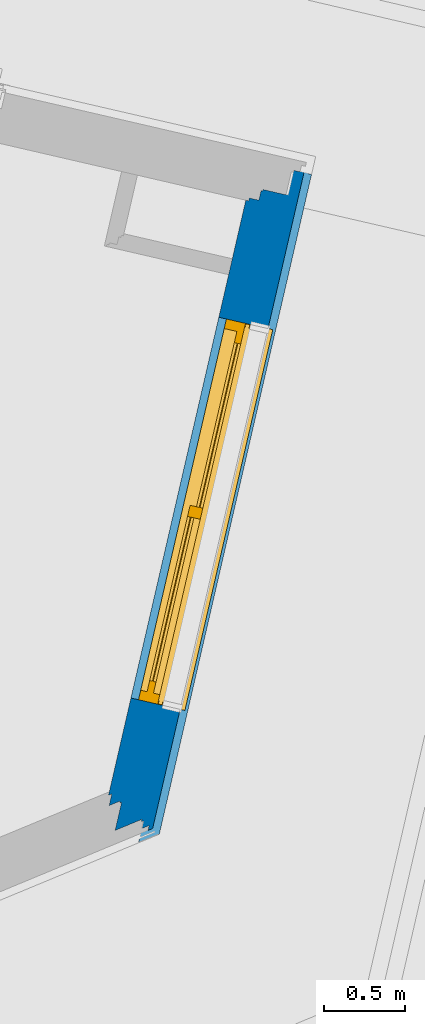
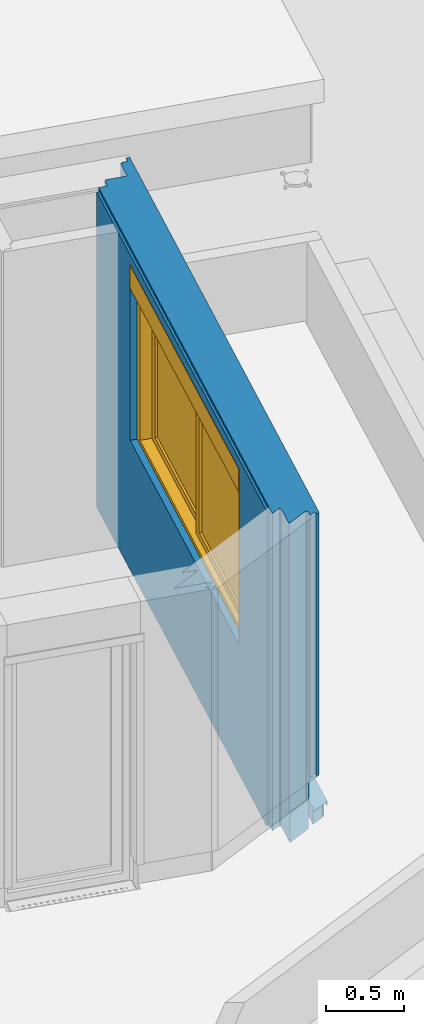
# One storey, part 9 of 47: 1 wall, 1 window, 1 opening.
"""IFC2X3 building model written with IfcOpenShell, lengths in metres."""

from ifc_helpers import new_model, entity, si_unit, converted_unit, derived_unit, money_unit, direction, frame, origin_with_axes, place, context, subcontext, project, spatial, open_shell, faceted_brep, surface_model, material, material_list, type_object, element, fill, save


model = new_model("IFC2X3")

# Units and contexts
model_context = context("Model", 3, precision=1e-05, world=origin_with_axes(), true_north=direction((0.0, 1.0)))
body_context = subcontext(model_context, "Body", "Model", "MODEL_VIEW")
ifc_project = project(units=[si_unit("LENGTHUNIT", "METRE"), si_unit("AREAUNIT", "SQUARE_METRE"), si_unit("VOLUMEUNIT", "CUBIC_METRE"), converted_unit("PLANEANGLEUNIT", "DEGREE", entity("IfcPlaneAngleMeasure", 0.0174532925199), si_unit("PLANEANGLEUNIT", "RADIAN"), dimensions=[0, 0, 0, 0, 0, 0, 0]), si_unit("SOLIDANGLEUNIT", "STERADIAN"), money_unit("EUR"), converted_unit("TIMEUNIT", "Year", entity("IfcTimeMeasure", 31556926.0), si_unit("TIMEUNIT", "SECOND"), dimensions=[0, 0, 1, 0, 0, 0, 0]), si_unit("MASSUNIT", "GRAM", prefix="KILO"), si_unit("THERMODYNAMICTEMPERATUREUNIT", "DEGREE_CELSIUS"), si_unit("LUMINOUSINTENSITYUNIT", "LUMEN"), si_unit("ENERGYUNIT", "JOULE", prefix="MEGA"), derived_unit("THERMALCONDUCTANCEUNIT", [(si_unit("POWERUNIT", "WATT"), 1), (si_unit("LENGTHUNIT", "METRE"), -1), (si_unit("THERMODYNAMICTEMPERATUREUNIT", "KELVIN"), -1)]), derived_unit("SPECIFICHEATCAPACITYUNIT", [(si_unit("ENERGYUNIT", "JOULE"), 1), (si_unit("MASSUNIT", "GRAM", prefix="KILO"), -1), (si_unit("THERMODYNAMICTEMPERATUREUNIT", "KELVIN"), -1)]), derived_unit("MASSDENSITYUNIT", [(si_unit("MASSUNIT", "GRAM", prefix="KILO"), 1), (si_unit("VOLUMEUNIT", "CUBIC_METRE"), -1)])], contexts=[model_context])

# Site, building, storey
site_placement = place(None, origin_with_axes())
site = spatial("IfcSite", under=ifc_project, at=site_placement, Name="Site", CompositionType="ELEMENT")
building_placement = place(site_placement, origin_with_axes())
building = spatial("IfcBuilding", under=site, at=building_placement, Name="Bâtiment", CompositionType="ELEMENT")
storey_placement = place(building_placement, frame((0.0, 0.0, 10.88), z_axis=(0.0, 0.0, 1.0), x_axis=(1.0, 0.0, 0.0)))
storey = spatial("IfcBuildingStorey", under=building, at=storey_placement, Name="R+4", CompositionType="ELEMENT", Elevation=10.88)

# Wall, opening, window
ifc_material_1 = material(Name="Finition int - Plaque de plâtre")
ifc_material_2 = material(Name="Isolation - Laine de verre")
ifc_material_3 = material(Name="Etanchéité - Pare-vapeur")
ifc_material_4 = material(Name="Bois - Massif 01")
ifc_material_5 = material(Name="Béton")
ifc_material_6 = material(Name="Bois - OSB 02")
ifc_material_7 = material(Name="Bois - Lattage")
ifc_material_8 = material(Name="Isolation - Polyuréthane (extérieur)")
ifc_material_9 = material(Name="Finition ext - Bardage bois")
ifc_material_10 = material(Name="Etanchéité - Bitume")
ifc_material_11 = material(Name="Métal - Aluminium")
ifc_material_list = material_list([ifc_material_1, ifc_material_2, ifc_material_3, ifc_material_4, ifc_material_4, ifc_material_2, ifc_material_5, ifc_material_6, ifc_material_7, ifc_material_8, ifc_material_9, ifc_material_10, ifc_material_11])
wall_type = type_object("IfcWallType", Name="Mur ossature Bois avec talon béton 358 x 2500", PredefinedType="ELEMENTEDWALL")
wall_placement = place(storey_placement, frame((-11.2162384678, -12.9901807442, 0.02), z_axis=(0.0, 0.0, 1.0), x_axis=(0.224876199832, 0.974387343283, 0.0)))
wall = element("IfcWall", 1, at=wall_placement, inside=storey, type_object=wall_type, material=ifc_material_list, Name="M_Ext-009", ObjectType="ELEMENTEDWALL", context=body_context, shape_type="Brep", body=[
    faceted_brep([(3.88898842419, 0.292000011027, 0.100000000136), (3.88898842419, 0.292000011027, 0.2), (3.88898842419, 0.292000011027, 0.23), (3.88898842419, 0.292000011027, 0.275), (3.88898842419, 0.292000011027, 0.435), (3.88898842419, 0.292000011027, 2.45499997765), (3.88898842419, 0.292000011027, 2.48), (0.150318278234, 0.292000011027, 2.48), (0.150318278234, 0.292000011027, 2.455), (0.150318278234, 0.292000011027, 0.435), (0.150318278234, 0.292000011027, 0.275), (0.150318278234, 0.292000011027, 0.23), (0.150318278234, 0.292000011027, 0.2), (0.150318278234, 0.292000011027, 0.100000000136), (0.150318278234, 0.292000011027, 0.0), (3.88898842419, 0.292000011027, 0.0), (0.751271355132, 0.292000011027, 2.22), (0.751271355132, 0.292000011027, 2.4), (3.15127135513, 0.292000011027, 2.4), (3.15127135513, 0.292000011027, 2.22), (3.15127135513, 0.292000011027, 1.02), (0.751271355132, 0.292000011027, 1.02), (3.88898842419, 0.309999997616, 0.100000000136), (3.88898842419, 0.309999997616, 0.2), (3.88898842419, 0.309999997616, 0.23), (3.88898842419, 0.309999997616, 0.275), (3.88898842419, 0.309999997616, 0.435), (3.88898842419, 0.309999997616, 2.45499997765), (3.88898842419, 0.309999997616, 2.48), (0.137468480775, 0.309999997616, 2.48), (0.137468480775, 0.309999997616, 2.455), (0.137468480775, 0.309999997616, 0.435), (0.137468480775, 0.309999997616, 0.275), (0.137468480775, 0.309999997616, 0.23), (0.137468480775, 0.309999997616, 0.2), (0.137468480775, 0.309999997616, 0.100000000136), (0.137468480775, 0.309999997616, 0.0), (3.88898842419, 0.309999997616, 0.0), (0.751271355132, 0.309999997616, 2.22), (0.751271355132, 0.309999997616, 2.4), (3.15127135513, 0.309999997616, 2.4), (3.15127135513, 0.309999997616, 2.22), (3.15127135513, 0.309999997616, 1.02), (0.751271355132, 0.309999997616, 1.02)], [[[0, 1, 2, 3, 4, 5, 6, 7, 8, 9, 10, 11, 12, 13, 14, 15], [16, 17, 18, 19, 20, 21]], [[1, 0, 22, 23]], [[2, 1, 23, 24]], [[3, 2, 24, 25]], [[4, 3, 25, 26]], [[5, 4, 26, 27]], [[5, 27, 28, 6]], [[28, 29, 7, 6]], [[30, 8, 7, 29]], [[30, 31, 9, 8]], [[31, 32, 10, 9]], [[32, 33, 11, 10]], [[33, 34, 12, 11]], [[34, 35, 13, 12]], [[35, 36, 14, 13]], [[36, 37, 15, 14]], [[0, 15, 37, 22]], [[17, 16, 38, 39]], [[18, 17, 39, 40]], [[19, 18, 40, 41]], [[19, 41, 42, 20]], [[20, 42, 43, 21]], [[38, 16, 21, 43]], [[35, 34, 33, 32, 31, 30, 29, 28, 27, 26, 25, 24, 23, 22, 37, 36], [39, 38, 43, 42, 41, 40]]]),
    faceted_brep([(3.90698841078, 0.232000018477, 0.100000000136), (3.90698841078, 0.232000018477, 0.2), (3.90698841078, 0.232000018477, 0.23), (3.90698841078, 0.232000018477, 0.275), (3.90698841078, 0.232000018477, 0.435), (3.90698841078, 0.232000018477, 2.45499997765), (3.90698841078, 0.232000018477, 2.5), (0.119430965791, 0.232000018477, 2.5), (0.119430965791, 0.232000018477, 2.455), (0.119430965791, 0.232000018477, 0.435), (0.119430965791, 0.232000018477, 0.275), (0.119430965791, 0.232000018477, 0.23), (0.119430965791, 0.232000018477, 0.2), (0.119430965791, 0.232000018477, 0.100000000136), (0.119430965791, 0.232000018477, 0.0), (3.90698841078, 0.232000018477, 0.0), (0.751271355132, 0.232000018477, 2.22), (0.751271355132, 0.232000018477, 2.4), (3.15127135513, 0.232000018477, 2.4), (3.15127135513, 0.232000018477, 2.22), (3.15127135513, 0.232000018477, 1.02), (0.751271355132, 0.232000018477, 1.02), (3.90698841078, 0.292000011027, 0.100000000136), (3.90698841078, 0.292000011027, 0.2), (3.90698841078, 0.292000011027, 0.23), (3.90698841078, 0.292000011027, 0.275), (3.90698841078, 0.292000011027, 0.435), (3.90698841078, 0.292000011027, 2.45499997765), (3.90698841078, 0.292000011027, 2.5), (0.0765982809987, 0.292000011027, 2.5), (0.0765982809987, 0.292000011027, 2.455), (0.0765982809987, 0.292000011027, 0.435), (0.0765982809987, 0.292000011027, 0.275), (0.0765982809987, 0.292000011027, 0.23), (0.0765982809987, 0.292000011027, 0.2), (0.0765982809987, 0.292000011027, 0.100000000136), (0.0765982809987, 0.292000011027, 0.0), (3.90698841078, 0.292000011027, 0.0), (0.751271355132, 0.292000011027, 2.22), (0.751271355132, 0.292000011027, 2.4), (3.15127135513, 0.292000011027, 2.4), (3.15127135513, 0.292000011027, 2.22), (3.15127135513, 0.292000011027, 1.02), (0.751271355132, 0.292000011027, 1.02)], [[[0, 1, 2, 3, 4, 5, 6, 7, 8, 9, 10, 11, 12, 13, 14, 15], [16, 17, 18, 19, 20, 21]], [[1, 0, 22, 23]], [[2, 1, 23, 24]], [[3, 2, 24, 25]], [[4, 3, 25, 26]], [[5, 4, 26, 27]], [[6, 5, 27, 28]], [[7, 6, 28, 29]], [[7, 29, 30, 8]], [[30, 31, 9, 8]], [[31, 32, 10, 9]], [[32, 33, 11, 10]], [[33, 34, 12, 11]], [[34, 35, 13, 12]], [[35, 36, 14, 13]], [[36, 37, 15, 14]], [[0, 15, 37, 22]], [[17, 16, 38, 39]], [[18, 17, 39, 40]], [[19, 18, 40, 41]], [[19, 41, 42, 20]], [[20, 42, 43, 21]], [[38, 16, 21, 43]], [[37, 36, 35, 34, 33, 32, 31, 30, 29, 28, 27, 26, 25, 24, 23, 22], [39, 38, 43, 42, 41, 40]]]),
    faceted_brep([(3.96698840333, 0.221999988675, 0.100000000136), (3.96698840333, 0.221999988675, 0.2), (3.96698840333, 0.221999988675, 0.23), (3.96698840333, 0.221999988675, 0.275), (3.96698840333, 0.221999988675, 0.435), (3.96698840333, 0.221999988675, 2.45499997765), (3.96698840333, 0.221999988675, 2.5), (0.114283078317, 0.221999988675, 2.5), (0.114283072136, 0.221999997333, 2.455), (0.114283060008, 0.221999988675, 0.435), (0.114283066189, 0.221999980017, 0.275), (0.11428307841, 0.221999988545, 0.23), (0.114283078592, 0.221999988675, 0.2), (0.114283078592, 0.221999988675, 0.100000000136), (0.114283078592, 0.221999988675, 0.0), (3.96698840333, 0.221999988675, 0.0), (0.751271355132, 0.221999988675, 2.22), (0.751271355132, 0.221999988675, 2.4), (3.15127135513, 0.221999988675, 2.4), (3.15127135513, 0.221999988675, 2.22), (3.15127135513, 0.221999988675, 1.02), (0.751271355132, 0.221999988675, 1.02), (3.96698840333, 0.232000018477, 0.100000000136), (3.96698840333, 0.232000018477, 0.2), (3.96698840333, 0.232000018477, 0.23), (3.96698840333, 0.232000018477, 0.275), (3.96698840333, 0.232000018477, 0.435), (3.96698840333, 0.232000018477, 2.45499997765), (3.96698840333, 0.232000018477, 2.5), (0.107144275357, 0.232000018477, 2.5), (0.107144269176, 0.232000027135, 2.455), (0.107144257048, 0.232000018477, 0.435), (0.107144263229, 0.23200000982, 0.275), (0.107144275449, 0.232000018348, 0.23), (0.107144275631, 0.232000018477, 0.2), (0.107144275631, 0.232000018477, 0.100000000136), (0.107144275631, 0.232000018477, 0.0), (3.96698840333, 0.232000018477, 0.0), (0.751271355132, 0.232000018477, 2.22), (0.751271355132, 0.232000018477, 2.4), (3.15127135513, 0.232000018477, 2.4), (3.15127135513, 0.232000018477, 2.22), (3.15127135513, 0.232000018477, 1.02), (0.751271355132, 0.232000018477, 1.02)], [[[0, 1, 2, 3, 4, 5, 6, 7, 8, 9, 10, 11, 12, 13, 14, 15], [16, 17, 18, 19, 20, 21]], [[1, 0, 22, 23]], [[2, 1, 23, 24]], [[3, 2, 24, 25]], [[4, 3, 25, 26]], [[5, 4, 26, 27]], [[6, 5, 27, 28]], [[7, 6, 28, 29]], [[7, 29, 30, 8]], [[30, 31, 9, 8]], [[31, 32, 10, 9]], [[32, 33, 11, 10]], [[33, 34, 12, 11]], [[34, 35, 13, 12]], [[35, 36, 14, 13]], [[36, 37, 15, 14]], [[0, 15, 37, 22]], [[17, 16, 38, 39]], [[18, 17, 39, 40]], [[19, 18, 40, 41]], [[19, 41, 42, 20]], [[20, 42, 43, 21]], [[38, 16, 21, 43]], [[37, 36, 35, 34, 33, 32, 31, 30, 29, 28, 27, 26, 25, 24, 23, 22], [39, 38, 43, 42, 41, 40]]]),
    faceted_brep([(-0.0638736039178, 0.222, 0.275), (0.0396387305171, 0.077, 0.275), (3.97698842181, 0.077, 0.275), (3.97698842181, 0.222, 0.275), (0.0396387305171, 0.077, 0.230000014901), (-0.0638736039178, 0.222, 0.230000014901), (3.97698842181, 0.077, 0.23), (3.97698842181, 0.222, 0.23)], [[[0, 1, 2, 3]], [[4, 1, 0, 5]], [[1, 4, 6, 2]], [[3, 2, 6, 7]], [[5, 0, 3, 7]], [[4, 5, 7, 6]]]),
    faceted_brep([(-0.0638736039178, 0.222, 2.5), (0.0396387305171, 0.077, 2.5), (3.97698842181, 0.077, 2.5), (3.97698842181, 0.222, 2.5), (0.0396387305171, 0.077, 2.455), (-0.0638736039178, 0.222, 2.455), (3.97698842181, 0.077, 2.455), (3.97698842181, 0.222, 2.455)], [[[0, 1, 2, 3]], [[4, 1, 0, 5]], [[1, 4, 6, 2]], [[3, 2, 6, 7]], [[5, 0, 3, 7]], [[4, 5, 7, 6]]]),
    faceted_brep([(3.15127135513, 0.183, 1.02), (3.15127135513, 0.183, 0.96), (3.15127135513, 0.077, 0.96), (3.15127135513, 0.077, 1.02), (3.15127135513, 0.077, 2.22), (3.15127135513, 0.112, 2.22), (3.15127135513, 0.112, 2.4), (3.15127135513, 0.221999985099, 2.4), (3.15127135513, 0.221999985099, 2.22), (3.15127135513, 0.221999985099, 1.02), (0.751271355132, 0.183, 1.02), (0.751271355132, 0.183, 0.96), (0.751271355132, 0.077, 0.96), (0.0396387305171, 0.077, 0.275), (3.97698843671, 0.077, 0.275), (3.97698843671, 0.077, 2.4550000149), (0.0396387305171, 0.077, 2.455), (0.751271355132, 0.077, 1.02), (0.751271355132, 0.077, 2.22), (0.751271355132, 0.112, 2.22), (0.751271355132, 0.112, 2.4), (0.751271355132, 0.221999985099, 2.4), (-0.0638735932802, 0.221999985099, 2.455), (3.97698843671, 0.221999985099, 2.4550000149), (3.97698843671, 0.221999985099, 0.275), (-0.0638735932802, 0.221999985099, 0.275), (0.751271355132, 0.221999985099, 2.22), (0.751271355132, 0.221999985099, 1.02)], [[[0, 1, 2, 3, 4, 5, 6, 7, 8, 9]], [[0, 10, 11, 1]], [[12, 2, 1, 11]], [[13, 14, 15, 16], [12, 17, 18, 4, 3, 2]], [[5, 4, 18, 19]], [[19, 20, 6, 5]], [[7, 6, 20, 21]], [[22, 23, 24, 25], [9, 8, 7, 21, 26, 27]], [[10, 0, 9, 27]], [[17, 12, 11, 10, 27, 26, 21, 20, 19, 18]], [[13, 25, 24, 14]], [[23, 15, 14, 24]], [[22, 16, 15, 23]], [[16, 22, 25, 13]]]),
    faceted_brep([(3.97698842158, 0.222000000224, 0.23), (-0.0823036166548, 0.222000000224, 0.230000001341), (0.0319168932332, 0.0619999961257, 0.230000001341), (3.97698842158, 0.0619999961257, 0.23), (-0.0823036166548, 0.222000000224, 0.100000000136), (-0.0823036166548, 0.222000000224, 0.2), (3.97698842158, 0.222000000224, 0.2), (3.97698842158, 0.222000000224, 0.100000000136), (3.97698842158, 0.222000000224, 0.0), (-0.0823036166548, 0.222000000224, 0.0), (0.0319168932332, 0.0619999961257, 0.2), (0.0319168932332, 0.0619999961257, 0.100000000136), (0.0319168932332, 0.0619999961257, 0.0), (3.97698842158, 0.0619999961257, 0.0), (3.97698842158, 0.0619999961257, 0.100000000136), (3.97698842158, 0.0619999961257, 0.2)], [[[0, 1, 2, 3]], [[4, 5, 1, 0, 6, 7, 8, 9]], [[5, 10, 2, 1]], [[3, 2, 10, 11, 12, 13, 14, 15]], [[6, 0, 3, 15]], [[11, 10, 5, 4]], [[7, 6, 15, 14]], [[8, 7, 14, 13]], [[13, 12, 9, 8]], [[12, 11, 4, 9]]]),
    faceted_brep([(3.15127135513, 0.0770000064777, 1.02), (3.15127135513, 0.0770000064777, 0.96), (3.15127135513, 0.065000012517, 0.96), (3.15127135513, 0.065000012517, 1.02), (3.15127135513, 0.065000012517, 2.22), (3.15127135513, 0.0770000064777, 2.22), (0.0248947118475, 0.0770000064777, 2.5), (4.12198841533, 0.0770000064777, 2.5), (4.12198841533, 0.0770000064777, 0.230000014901), (0.0248947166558, 0.0770000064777, 0.23), (0.751271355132, 0.0770000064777, 2.22), (0.751271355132, 0.0770000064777, 1.02), (0.751271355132, 0.0770000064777, 0.96), (0.751271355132, 0.065000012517, 0.96), (4.12198841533, 0.065000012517, 2.5), (0.0334612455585, 0.065000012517, 2.5), (0.0334612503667, 0.065000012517, 0.23), (4.12198841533, 0.065000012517, 0.230000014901), (0.751271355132, 0.065000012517, 1.02), (0.751271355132, 0.065000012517, 2.22)], [[[0, 1, 2, 3, 4, 5]], [[6, 7, 8, 9], [1, 0, 5, 10, 11, 12]], [[13, 2, 1, 12]], [[14, 15, 16, 17], [13, 18, 19, 4, 3, 2]], [[19, 10, 5, 4]], [[14, 7, 6, 15]], [[17, 8, 7, 14]], [[8, 17, 16, 9]], [[9, 16, 15, 6]], [[18, 13, 12, 11, 10, 19]]]),
    faceted_brep([(3.15127135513, 0.0649999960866, 1.02), (3.15127135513, 0.0649999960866, 0.96), (3.15127135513, 0.024999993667, 0.96), (3.15127135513, 0.024999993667, 1.02), (3.15127135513, 0.024999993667, 2.22), (3.15127135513, 0.0649999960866, 2.22), (4.13398842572, 0.0649999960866, 0.435000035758), (-0.0156854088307, 0.0649999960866, 0.435), (-0.0156854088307, 0.0649999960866, 2.5), (4.13398842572, 0.0649999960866, 2.5), (0.751271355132, 0.0649999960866, 2.22), (0.751271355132, 0.0649999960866, 1.02), (0.751271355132, 0.0649999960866, 0.96), (0.751271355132, 0.024999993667, 0.96), (4.13398842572, 0.024999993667, 2.5), (0.0128697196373, 0.024999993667, 2.5), (0.0128697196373, 0.024999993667, 0.435), (4.13398842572, 0.024999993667, 0.435000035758), (0.751271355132, 0.024999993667, 1.02), (0.751271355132, 0.024999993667, 2.22), (4.13398842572, 0.0600000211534, 0.435000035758), (-0.0121160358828, 0.0600000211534, 0.435)], [[[0, 1, 2, 3, 4, 5]], [[6, 7, 8, 9], [1, 0, 5, 10, 11, 12]], [[13, 2, 1, 12]], [[14, 15, 16, 17], [13, 18, 19, 4, 3, 2]], [[19, 10, 5, 4]], [[20, 21, 7, 6]], [[16, 15, 8, 7, 21]], [[14, 9, 8, 15]], [[20, 6, 9, 14, 17]], [[18, 13, 12, 11, 10, 19]], [[17, 16, 21, 20]]]),
    faceted_brep([(-0.00926618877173, -0.0180000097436, 0.0999999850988), (4.13698842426, -0.0180000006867, 0.0999999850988), (4.13698842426, -0.0180000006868, 0.2), (4.13698842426, -0.0180000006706, 0.230000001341), (-0.0092661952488, -0.0180000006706, 0.230000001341), (-0.00926619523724, -0.0180000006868, 0.2), (4.13698842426, 0.0619999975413, 0.0999999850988), (-0.0663764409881, 0.0619999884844, 0.0999999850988), (0.0319168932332, 0.0619999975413, 0.0999999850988), (3.97698842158, 0.0619999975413, 0.0999999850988), (4.13698842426, 0.0619999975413, 0.2), (4.13698842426, 0.0619999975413, 0.230000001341), (-0.0663764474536, 0.0619999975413, 0.230000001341), (-0.0663764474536, 0.0619999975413, 0.2)], [[[0, 1, 2, 3, 4, 5]], [[6, 1, 0, 7, 8, 9]], [[1, 6, 10, 2]], [[10, 11, 3, 2]], [[11, 12, 4, 3]], [[13, 5, 4, 12]], [[7, 0, 5, 13]], [[8, 7, 13, 12, 11, 10, 6, 9]]]),
    faceted_brep([(3.15127135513, 0.025, 1.02), (3.15127135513, 0.0, 1.02), (3.15127135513, 0.0, 2.22), (3.15127135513, 0.025, 2.22), (3.15127135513, 0.0, 0.96), (3.15127135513, 0.025, 0.96), (1.8308607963e-09, 0.0, 0.434999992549), (4.17398842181, 0.0, 0.435), (4.17398842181, 0.0, 2.5), (1.8308607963e-09, 0.0, 2.5), (0.751271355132, 0.0, 0.96), (0.751271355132, 0.0, 1.02), (0.751271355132, 0.0, 2.22), (0.751271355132, 0.025, 2.22), (-0.0178469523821, 0.025, 0.434999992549), (-0.0178469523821, 0.025, 2.5), (4.17398842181, 0.025, 2.5), (4.17398842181, 0.025, 0.435), (0.751271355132, 0.025, 1.02), (0.751271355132, 0.025, 0.96)], [[[0, 1, 2, 3]], [[4, 1, 0, 5]], [[6, 7, 8, 9], [10, 11, 12, 2, 1, 4]], [[12, 13, 3, 2]], [[14, 15, 16, 17], [5, 0, 3, 13, 18, 19]], [[10, 4, 5, 19]], [[6, 14, 17, 7]], [[7, 17, 16, 8]], [[15, 9, 8, 16]], [[9, 15, 14, 6]], [[18, 11, 10, 19]], [[11, 18, 13, 12]]]),
    faceted_brep([(-0.0144141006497, -0.027999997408, 0.109999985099), (4.21698842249, -0.0279999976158, 0.109999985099), (4.21698842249, -0.0279999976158, 0.2), (4.21698842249, -0.0279999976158, 0.230000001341), (-0.0144140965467, -0.0279999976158, 0.230000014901), (-0.0144140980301, -0.0279999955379, 0.2), (4.21698842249, -0.0180000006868, 0.109999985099), (-0.0215528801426, -0.018000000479, 0.109999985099), (-0.00926618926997, -0.0180000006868, 0.109999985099), (4.13698842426, -0.0180000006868, 0.109999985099), (4.21698842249, -0.0180000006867, 0.2), (4.21698842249, -0.0180000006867, 0.230000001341), (-0.0215528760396, -0.0180000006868, 0.230000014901), (-0.021552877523, -0.0179999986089, 0.2)], [[[0, 1, 2, 3, 4, 5]], [[6, 1, 0, 7, 8, 9]], [[1, 6, 10, 2]], [[10, 11, 3, 2]], [[11, 12, 4, 3]], [[13, 5, 4, 12]], [[7, 0, 5, 13]], [[8, 7, 13, 12, 11, 10, 6, 9]]]),
    faceted_brep([(4.13398842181, 0.06, 0.275), (4.13398842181, 0.06, 0.435), (0.0308873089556, 0.06, 0.434999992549), (0.0308873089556, 0.06, 0.234999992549), (4.13398842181, 0.06, 0.234999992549), (4.13398842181, 0.065, 0.435), (4.13398842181, 0.065, 0.275), (0.027317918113, 0.065, 0.434999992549), (0.027317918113, 0.065, 0.234999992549), (4.13398842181, -0.048, 0.234999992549), (-0.101808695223, 0.06, 0.234999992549), (-0.0247098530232, -0.048, 0.234999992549), (4.13398842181, -0.048, 0.23), (4.13398842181, -0.043, 0.23), (4.13398842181, -0.0279999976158, 0.23), (4.13398842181, 0.065, 0.23), (-0.105378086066, 0.065, 0.23), (-0.105378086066, 0.065, 0.234999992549), (-0.0282792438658, -0.043, 0.2), (-0.0247098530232, -0.048, 0.2), (-0.0389874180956, -0.0279999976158, 0.230000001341), (-0.0282792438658, -0.043, 0.23), (4.24198842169, -0.048, 0.2), (4.24198842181, -0.048, 0.23), (4.22698841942, -0.048, 0.230000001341), (4.22698841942, -0.043, 0.230000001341), (4.24198842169, -0.043, 0.2), (4.24198842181, -0.043, 0.23)], [[[0, 1, 2, 3, 4]], [[5, 1, 0, 6]], [[1, 5, 7, 2]], [[8, 3, 2, 7]], [[9, 4, 3, 10, 11]], [[6, 0, 4, 9, 12, 13, 14, 15]], [[5, 6, 15, 16, 17, 8, 7]], [[17, 10, 3, 8]], [[18, 19, 11, 10, 17, 16, 20, 21]], [[12, 9, 11, 19, 22, 23, 24]], [[12, 24, 25, 13]], [[14, 13, 21, 20]], [[15, 14, 20, 16]], [[26, 22, 19, 18]], [[25, 27, 26, 18, 21, 13]], [[27, 23, 22, 26]], [[24, 23, 27, 25]]]),
])
opening_placement = place(wall_placement, frame((1.95127135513, 0.0, 1.02), z_axis=(0.0, 0.0, 1.0), x_axis=(1.0, 0.0, 0.0)))
opening = element("IfcOpeningElement", 2, at=opening_placement, cuts=wall, Name="MEN 131", context=body_context, shape_type="Brep", body=[
    faceted_brep([(1.2, 0.142, 0.0), (-1.2, 0.142, 0.0), (-1.2, 0.689999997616, 0.0), (1.2, 0.689999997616, 0.0), (1.2, 0.142, 1.2), (-1.2, 0.142, 1.2), (-1.2, 0.689999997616, 1.2), (1.2, 0.689999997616, 1.2)], [[[0, 1, 2, 3]], [[0, 4, 5, 1]], [[1, 5, 6, 2]], [[3, 2, 6, 7]], [[4, 0, 3, 7]], [[5, 4, 7, 6]]]),
    faceted_brep([(1.2, 0.142, 0.0), (1.2, 0.142, 1.2), (1.2, -0.405999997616, 1.2), (1.2, -0.405999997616, 0.0), (-1.2, 0.142, 0.0), (-1.2, 0.142, 1.2), (-1.2, -0.405999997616, 1.2), (-1.2, -0.405999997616, 0.0)], [[[0, 1, 2, 3]], [[0, 4, 5, 1]], [[1, 5, 6, 2]], [[3, 2, 6, 7]], [[4, 0, 3, 7]], [[5, 4, 7, 6]]]),
    faceted_brep([(1.2, 0.142, 0.0), (1.2, 0.142, 1.2), (1.2, -0.405999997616, 1.2), (1.2, -0.405999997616, 0.0), (-1.2, 0.142, 0.0), (-1.2, 0.142, 1.2), (-1.2, -0.405999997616, 1.2), (-1.2, -0.405999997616, 0.0)], [[[0, 1, 2, 3]], [[0, 4, 5, 1]], [[1, 5, 6, 2]], [[3, 2, 6, 7]], [[4, 0, 3, 7]], [[5, 4, 7, 6]]]),
    faceted_brep([(1.2, 0.112, 1.2), (-1.2, 0.112, 1.2), (-1.2, 0.659999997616, 1.2), (1.2, 0.659999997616, 1.2), (1.2, 0.112, 1.38), (-1.2, 0.112, 1.38), (-1.2, 0.659999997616, 1.38), (1.2, 0.659999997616, 1.38)], [[[0, 1, 2, 3]], [[0, 4, 5, 1]], [[1, 5, 6, 2]], [[3, 2, 6, 7]], [[4, 0, 3, 7]], [[5, 4, 7, 6]]]),
    faceted_brep([(1.2, 0.183, 0.0), (-1.2, 0.183, 0.0), (-1.2, -0.364999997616, 0.0), (1.2, -0.364999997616, 0.0), (1.2, 0.183, -0.06), (-1.2, 0.183, -0.06), (-1.2, -0.364999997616, -0.06), (1.2, -0.364999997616, -0.06)], [[[0, 1, 2, 3]], [[0, 4, 5, 1]], [[1, 5, 6, 2]], [[3, 2, 6, 7]], [[4, 0, 3, 7]], [[5, 4, 7, 6]]]),
])
window_style = type_object("IfcWindowStyle", Name="Baie générique 2017 v2", ConstructionType="NOTDEFINED", OperationType="NOTDEFINED", ParameterTakesPrecedence=False, Sizeable=False)
window_placement = place(opening_placement, frame((-1.2, 0.0, 0.0), z_axis=(0.0, 0.0, 1.0), x_axis=(1.0, 0.0, 0.0)))
window = element("IfcWindow", 3, at=window_placement, inside=storey, type_object=window_style, Name="MEN 131", ObjectType="WINDOW", OverallHeight=1.2, OverallWidth=2.4, context=body_context, shape_type="SurfaceModel", body=[
    faceted_brep([(2.4, 0.262, 0.0), (2.4, 0.142, 0.0), (0.0, 0.142, 0.0), (0.0, 0.262, 0.0), (2.4, 0.262, 1.2), (2.4, 0.142, 1.2), (0.0, 0.142, 1.2), (2.34, 0.142, 0.03), (0.06, 0.142, 0.03), (0.06, 0.142, 1.15), (2.34, 0.142, 1.15), (0.0, 0.262, 1.2), (2.34, 0.262, 0.03), (2.34, 0.262, 1.15), (0.06, 0.262, 1.15), (0.06, 0.262, 0.03)], [[[0, 1, 2, 3]], [[4, 5, 1, 0]], [[1, 5, 6, 2], [7, 8, 9, 10]], [[3, 2, 6, 11]], [[0, 3, 11, 4], [12, 13, 14, 15]], [[11, 6, 5, 4]], [[15, 8, 7, 12]], [[14, 9, 8, 15]], [[13, 10, 9, 14]], [[12, 7, 10, 13]]]),
    faceted_brep([(2.34, 0.182, 0.03), (1.165, 0.182, 0.03), (1.165, 0.182, 1.15), (2.34, 0.182, 1.15), (1.235, 0.182, 1.08), (1.235, 0.182, 0.08), (2.27, 0.182, 0.08), (2.27, 0.182, 1.08), (1.165, 0.162, 0.03), (2.34, 0.162, 0.03), (2.34, 0.142, 0.03), (1.165, 0.142, 0.03), (1.165, 0.162, 1.15), (1.165, 0.142, 1.15), (2.34, 0.142, 1.15), (2.34, 0.162, 1.15), (1.235, 0.142, 1.08), (1.235, 0.142, 0.08), (2.27, 0.142, 0.08), (2.27, 0.142, 1.08)], [[[0, 1, 2, 3], [4, 5, 6, 7]], [[8, 1, 0, 9, 10, 11]], [[12, 2, 1, 8, 11, 13]], [[13, 14, 15, 3, 2, 12]], [[14, 10, 9, 0, 3, 15]], [[4, 16, 17, 5]], [[17, 18, 6, 5]], [[18, 19, 7, 6]], [[7, 19, 16, 4]], [[13, 11, 10, 14], [17, 16, 19, 18]]]),
    surface_model("IfcShellBasedSurfaceModel", [(2.34, 0.182, 0.03), (1.165, 0.182, 0.03), (1.165, 0.182, 1.15), (2.34, 0.182, 1.15), (2.27, 0.182, 0.08), (2.27, 0.182, 1.08), (1.235, 0.182, 1.08), (1.235, 0.182, 0.08)], [open_shell([[[0, 1, 2, 3], [4, 5, 6, 7]]])]),
    surface_model("IfcShellBasedSurfaceModel", [(2.34, 0.142, 0.03), (1.165, 0.142, 0.03), (1.165, 0.142, 1.15), (2.34, 0.142, 1.15), (2.27, 0.142, 0.08), (2.27, 0.142, 1.08), (1.235, 0.142, 1.08), (1.235, 0.142, 0.08)], [open_shell([[[0, 1, 2, 3], [4, 5, 6, 7]]])]),
    faceted_brep([(2.27, 0.1645, 0.08), (2.27, 0.1595, 0.08), (1.235, 0.1595, 0.08), (1.235, 0.1645, 0.08), (2.27, 0.1645, 1.08), (2.27, 0.1595, 1.08), (1.235, 0.1595, 1.08), (1.235, 0.1645, 1.08)], [[[0, 1, 2, 3]], [[4, 5, 1, 0]], [[1, 5, 6, 2]], [[3, 2, 6, 7]], [[0, 3, 7, 4]], [[7, 6, 5, 4]]]),
    faceted_brep([(1.235, 0.222, 0.03), (0.06, 0.222, 0.03), (0.06, 0.222, 1.15), (1.235, 0.222, 1.15), (0.13, 0.222, 1.08), (0.13, 0.222, 0.08), (1.165, 0.222, 0.08), (1.165, 0.222, 1.08), (0.06, 0.202, 0.03), (1.235, 0.202, 0.03), (1.235, 0.182, 0.03), (0.06, 0.182, 0.03), (0.06, 0.202, 1.15), (0.06, 0.182, 1.15), (1.235, 0.182, 1.15), (1.235, 0.202, 1.15), (0.13, 0.182, 1.08), (0.13, 0.182, 0.08), (1.165, 0.182, 0.08), (1.165, 0.182, 1.08)], [[[0, 1, 2, 3], [4, 5, 6, 7]], [[8, 1, 0, 9, 10, 11]], [[12, 2, 1, 8, 11, 13]], [[13, 14, 15, 3, 2, 12]], [[14, 10, 9, 0, 3, 15]], [[4, 16, 17, 5]], [[17, 18, 6, 5]], [[18, 19, 7, 6]], [[7, 19, 16, 4]], [[13, 11, 10, 14], [17, 16, 19, 18]]]),
    surface_model("IfcShellBasedSurfaceModel", [(1.235, 0.222, 0.03), (0.06, 0.222, 0.03), (0.06, 0.222, 1.15), (1.235, 0.222, 1.15), (1.165, 0.222, 0.08), (1.165, 0.222, 1.08), (0.13, 0.222, 1.08), (0.13, 0.222, 0.08)], [open_shell([[[0, 1, 2, 3], [4, 5, 6, 7]]])]),
    surface_model("IfcShellBasedSurfaceModel", [(1.235, 0.182, 0.03), (0.06, 0.182, 0.03), (0.06, 0.182, 1.15), (1.235, 0.182, 1.15), (1.165, 0.182, 0.08), (1.165, 0.182, 1.08), (0.13, 0.182, 1.08), (0.13, 0.182, 0.08)], [open_shell([[[0, 1, 2, 3], [4, 5, 6, 7]]])]),
    faceted_brep([(1.165, 0.2045, 0.08), (1.165, 0.1995, 0.08), (0.13, 0.1995, 0.08), (0.13, 0.2045, 0.08), (1.165, 0.2045, 1.08), (1.165, 0.1995, 1.08), (0.13, 0.1995, 1.08), (0.13, 0.2045, 1.08)], [[[0, 1, 2, 3]], [[4, 5, 1, 0]], [[1, 5, 6, 2]], [[3, 2, 6, 7]], [[0, 3, 7, 4]], [[7, 6, 5, 4]]]),
    faceted_brep([(2.4, 0.112, 0.0), (2.4, 0.112, 1.2), (2.375, 0.112, 1.2), (2.375, 0.112, 0.0), (2.4, 0.14, 0.0), (2.4, 0.14, 1.2), (2.375, 0.14, 1.2), (2.375, 0.138, 1.2), (2.398, 0.138, 1.2), (2.398, 0.114, 1.2), (2.375, 0.114, 1.2), (2.375, 0.114, 0.0), (2.398, 0.114, 0.0), (2.398, 0.138, 0.0), (2.375, 0.138, 0.0), (2.375, 0.14, 0.0)], [[[0, 1, 2, 3]], [[4, 5, 1, 0]], [[1, 5, 6, 7, 8, 9, 10, 2]], [[3, 2, 10, 11]], [[0, 3, 11, 12, 13, 14, 15, 4]], [[15, 6, 5, 4]], [[14, 7, 6, 15]], [[13, 8, 7, 14]], [[12, 9, 8, 13]], [[11, 10, 9, 12]]]),
    faceted_brep([(0.0, 0.112, 0.0), (0.025, 0.112, 0.0), (0.025, 0.112, 1.2), (0.0, 0.112, 1.2), (0.0, 0.14, 0.0), (0.025, 0.14, 0.0), (0.025, 0.138, 0.0), (0.002, 0.138, 0.0), (0.002, 0.114, 0.0), (0.025, 0.114, 0.0), (0.025, 0.114, 1.2), (0.002, 0.114, 1.2), (0.002, 0.138, 1.2), (0.025, 0.138, 1.2), (0.025, 0.14, 1.2), (0.0, 0.14, 1.2)], [[[0, 1, 2, 3]], [[0, 4, 5, 6, 7, 8, 9, 1]], [[1, 9, 10, 2]], [[3, 2, 10, 11, 12, 13, 14, 15]], [[4, 0, 3, 15]], [[5, 4, 15, 14]], [[6, 5, 14, 13]], [[7, 6, 13, 12]], [[8, 7, 12, 11]], [[9, 8, 11, 10]]]),
    faceted_brep([(0.002, 0.114, 1.2), (0.002, 0.114, 1.378), (2.398, 0.114, 1.378), (2.398, 0.114, 1.2), (0.002, 0.112, 1.2), (0.002, 0.112, 1.38), (0.002, 0.312, 1.38), (0.002, 0.312, 1.2), (0.002, 0.31, 1.2), (0.002, 0.31, 1.378), (2.398, 0.31, 1.378), (2.398, 0.31, 1.2), (2.398, 0.312, 1.2), (2.398, 0.312, 1.38), (2.398, 0.112, 1.38), (2.398, 0.112, 1.2)], [[[0, 1, 2, 3]], [[0, 4, 5, 6, 7, 8, 9, 1]], [[1, 9, 10, 2]], [[3, 2, 10, 11, 12, 13, 14, 15]], [[4, 0, 3, 15]], [[5, 4, 15, 14]], [[6, 5, 14, 13]], [[7, 6, 13, 12]], [[8, 7, 12, 11]], [[9, 8, 11, 10]]]),
    faceted_brep([(0.002, 0.214469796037, 1.27436337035), (0.002, 0.197549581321, 1.27050144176), (0.002, 0.183980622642, 1.28132232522), (0.002, 0.183980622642, 1.29867767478), (0.002, 0.197549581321, 1.30949855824), (0.002, 0.214469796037, 1.30563662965), (0.002, 0.222, 1.29), (2.398, 0.214469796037, 1.27436337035), (2.398, 0.197549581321, 1.27050144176), (2.398, 0.183980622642, 1.28132232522), (2.398, 0.183980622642, 1.29867767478), (2.398, 0.197549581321, 1.30949855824), (2.398, 0.214469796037, 1.30563662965), (2.398, 0.222, 1.29)], [[[0, 1, 2, 3, 4, 5, 6]], [[1, 0, 7, 8]], [[2, 1, 8, 9]], [[3, 2, 9, 10]], [[4, 3, 10, 11]], [[5, 4, 11, 12]], [[6, 5, 12, 13]], [[0, 6, 13, 7]], [[7, 13, 12, 11, 10, 9, 8]]]),
    faceted_brep([(0.012, 0.272275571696, 1.25615706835), (0.012, 0.250632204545, 1.22901714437), (0.012, 0.219356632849, 1.21395562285), (0.012, 0.184643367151, 1.21395562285), (0.012, 0.153367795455, 1.22901714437), (0.012, 0.131724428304, 1.25615706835), (0.012, 0.124, 1.29), (0.012, 0.131724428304, 1.32384293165), (0.012, 0.153367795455, 1.35098285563), (0.012, 0.184643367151, 1.36604437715), (0.012, 0.219356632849, 1.36604437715), (0.012, 0.250632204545, 1.35098285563), (0.012, 0.272275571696, 1.32384293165), (0.012, 0.28, 1.29), (2.388, 0.272275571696, 1.25615706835), (2.388, 0.250632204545, 1.22901714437), (2.388, 0.219356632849, 1.21395562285), (2.388, 0.184643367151, 1.21395562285), (2.388, 0.153367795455, 1.22901714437), (2.388, 0.131724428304, 1.25615706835), (2.388, 0.124, 1.29), (2.388, 0.131724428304, 1.32384293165), (2.388, 0.153367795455, 1.35098285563), (2.388, 0.184643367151, 1.36604437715), (2.388, 0.219356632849, 1.36604437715), (2.388, 0.250632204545, 1.35098285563), (2.388, 0.272275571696, 1.32384293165), (2.388, 0.28, 1.29)], [[[0, 1, 2, 3, 4, 5, 6, 7, 8, 9, 10, 11, 12, 13]], [[1, 0, 14, 15]], [[2, 1, 15, 16]], [[3, 2, 16, 17]], [[4, 3, 17, 18]], [[5, 4, 18, 19]], [[6, 5, 19, 20]], [[7, 6, 20, 21]], [[8, 7, 21, 22]], [[9, 8, 22, 23]], [[10, 9, 23, 24]], [[11, 10, 24, 25]], [[12, 11, 25, 26]], [[13, 12, 26, 27]], [[0, 13, 27, 14]], [[14, 27, 26, 25, 24, 23, 22, 21, 20, 19, 18, 17, 16, 15]]]),
    faceted_brep([(0.0, 0.312, 1.2), (0.0, 0.312, 1.38), (0.002, 0.312, 1.38), (0.002, 0.312, 1.2), (0.0, 0.112, 1.2), (0.0, 0.112, 1.38), (0.002, 0.112, 1.38), (0.002, 0.112, 1.2)], [[[0, 1, 2, 3]], [[0, 4, 5, 1]], [[1, 5, 6, 2]], [[3, 2, 6, 7]], [[4, 0, 3, 7]], [[5, 4, 7, 6]]]),
    faceted_brep([(2.398, 0.312, 1.2), (2.398, 0.312, 1.38), (2.4, 0.312, 1.38), (2.4, 0.312, 1.2), (2.398, 0.112, 1.2), (2.398, 0.112, 1.38), (2.4, 0.112, 1.38), (2.4, 0.112, 1.2)], [[[0, 1, 2, 3]], [[0, 4, 5, 1]], [[1, 5, 6, 2]], [[3, 2, 6, 7]], [[4, 0, 3, 7]], [[5, 4, 7, 6]]]),
    faceted_brep([(0.002, 0.138, 1.2), (0.002, 0.31, 1.2), (2.398, 0.31, 1.2), (2.398, 0.138, 1.2), (0.002, 0.138, 1.202), (0.002, 0.31, 1.202), (2.398, 0.31, 1.202), (2.398, 0.138, 1.202)], [[[0, 1, 2, 3]], [[0, 4, 5, 1]], [[1, 5, 6, 2]], [[3, 2, 6, 7]], [[4, 0, 3, 7]], [[5, 4, 7, 6]]]),
    faceted_brep([(0.012, 0.136, 1.2), (0.012, 0.136, 1.29), (2.388, 0.136, 1.29), (2.388, 0.136, 1.2), (0.012, 0.116, 1.2), (0.012, 0.116, 1.29), (2.388, 0.116, 1.29), (2.388, 0.116, 1.2)], [[[0, 1, 2, 3]], [[1, 0, 4, 5]], [[2, 1, 5, 6]], [[3, 2, 6, 7]], [[4, 0, 3, 7]], [[5, 4, 7, 6]]]),
    faceted_brep([(0.0, 0.183, 0.0), (2.4, 0.183, 0.0), (2.4, 0.183, -0.02), (0.0, 0.183, -0.02), (0.0, 0.18, 0.0), (2.4, 0.18, 0.0), (2.4, 0.18, -0.0175109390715), (2.4, -0.03, -0.0575109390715), (2.4, -0.03, -0.107242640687), (2.4, -0.0148786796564, -0.0891213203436), (2.4, -0.017, -0.087), (2.4, -0.027, -0.1), (2.4, -0.027, -0.06), (0.0, -0.027, -0.06), (0.0, -0.027, -0.1), (0.0, -0.017, -0.087), (0.0, -0.0148786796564, -0.0891213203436), (0.0, -0.03, -0.107242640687), (0.0, -0.03, -0.0575109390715), (0.0, 0.18, -0.0175109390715)], [[[0, 1, 2, 3]], [[4, 5, 1, 0]], [[1, 5, 6, 7, 8, 9, 10, 11, 12, 2]], [[3, 2, 12, 13]], [[0, 3, 13, 14, 15, 16, 17, 18, 19, 4]], [[19, 6, 5, 4]], [[18, 7, 6, 19]], [[17, 8, 7, 18]], [[16, 9, 8, 17]], [[15, 10, 9, 16]], [[14, 11, 10, 15]], [[13, 12, 11, 14]]]),
])
fill(opening, window)

save(model, "model.ifc")
